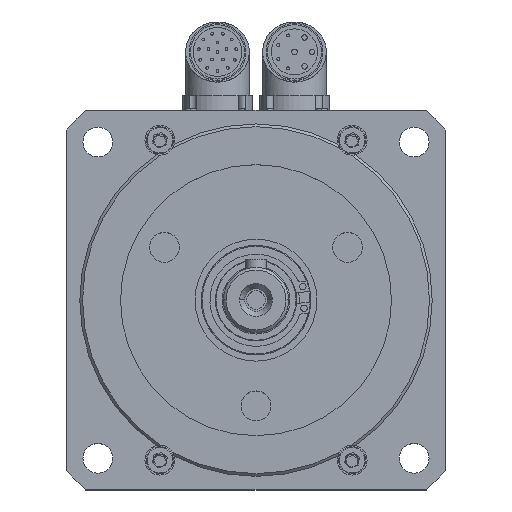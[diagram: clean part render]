
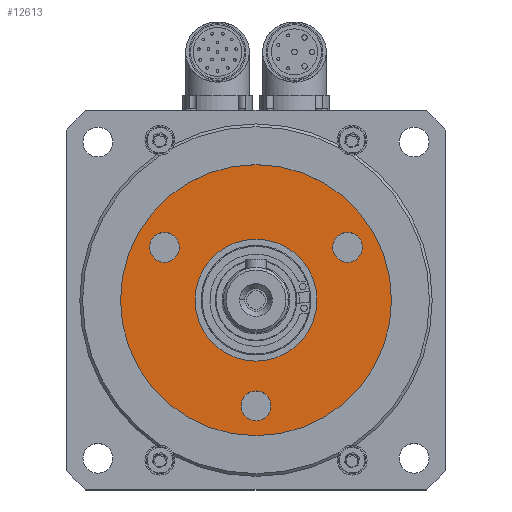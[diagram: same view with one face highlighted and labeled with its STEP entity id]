
A CAD part, top view. The second image highlights one B-rep face of the part: STEP entity #12613.
In plain terms, the highlighted planar face has unit normal (0, 0, 1).
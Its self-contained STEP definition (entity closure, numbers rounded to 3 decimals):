
#268 = CIRCLE ( 'NONE', #1715, 22.5 ) ;
#276 = CIRCLE ( 'NONE', #1720, 50. ) ;
#676 = VERTEX_POINT ( 'NONE', #2990 ) ;
#740 = VERTEX_POINT ( 'NONE', #2948 ) ;
#767 = VERTEX_POINT ( 'NONE', #3032 ) ;
#806 = VERTEX_POINT ( 'NONE', #2960 ) ;
#1602 = EDGE_LOOP ( 'NONE', ( #14963, #14964 ) ) ;
#1715 = AXIS2_PLACEMENT_3D ( 'NONE', #2246, #2247, #2248 ) ;
#1720 = AXIS2_PLACEMENT_3D ( 'NONE', #2257, #5171, #5173 ) ;
#1803 = AXIS2_PLACEMENT_3D ( 'NONE', #4909, #4910, #4911 ) ;
#1806 = AXIS2_PLACEMENT_3D ( 'NONE', #4899, #4900, #4901 ) ;
#1807 = AXIS2_PLACEMENT_3D ( 'NONE', #4915, #4916, #4917 ) ;
#1809 = AXIS2_PLACEMENT_3D ( 'NONE', #4912, #4913, #4914 ) ;
#1813 = AXIS2_PLACEMENT_3D ( 'NONE', #4935, #4943, #4944 ) ;
#1820 = AXIS2_PLACEMENT_3D ( 'NONE', #4949, #4956, #4957 ) ;
#1823 = AXIS2_PLACEMENT_3D ( 'NONE', #4958, #4965, #4966 ) ;
#1825 = AXIS2_PLACEMENT_3D ( 'NONE', #4964, #4970, #4971 ) ;
#2246 = CARTESIAN_POINT ( 'NONE',  ( 0., 0., 21.5 ) ) ;
#2247 = DIRECTION ( 'NONE',  ( 0., 0., 1. ) ) ;
#2248 = DIRECTION ( 'NONE',  ( 1., 0., 0. ) ) ;
#2257 = CARTESIAN_POINT ( 'NONE',  ( 0., 0., 21.5 ) ) ;
#2603 = CIRCLE ( 'NONE', #1806, 5.5 ) ;
#2608 = CIRCLE ( 'NONE', #1803, 5.5 ) ;
#2609 = CIRCLE ( 'NONE', #1809, 5.5 ) ;
#2611 = CIRCLE ( 'NONE', #1807, 22.5 ) ;
#2623 = CIRCLE ( 'NONE', #1813, 5.5 ) ;
#2627 = CIRCLE ( 'NONE', #1820, 5.5 ) ;
#2631 = CIRCLE ( 'NONE', #1823, 5.5 ) ;
#2635 = CIRCLE ( 'NONE', #1825, 50. ) ;
#2948 = CARTESIAN_POINT ( 'NONE',  ( -28.275, 19.5, 21.5 ) ) ;
#2960 = CARTESIAN_POINT ( 'NONE',  ( -22.5, 0., 21.5 ) ) ;
#2990 = CARTESIAN_POINT ( 'NONE',  ( 28.275, 19.5, 21.5 ) ) ;
#3032 = CARTESIAN_POINT ( 'NONE',  ( -39.275, 19.5, 21.5 ) ) ;
#4899 = CARTESIAN_POINT ( 'NONE',  ( -33.775, 19.5, 21.5 ) ) ;
#4900 = DIRECTION ( 'NONE',  ( 0., 0., 1. ) ) ;
#4901 = DIRECTION ( 'NONE',  ( 1., 0., 0. ) ) ;
#4909 = CARTESIAN_POINT ( 'NONE',  ( 33.775, 19.5, 21.5 ) ) ;
#4910 = DIRECTION ( 'NONE',  ( 0., 0., 1. ) ) ;
#4911 = DIRECTION ( 'NONE',  ( 1., 0., 0. ) ) ;
#4912 = CARTESIAN_POINT ( 'NONE',  ( 0., -39., 21.5 ) ) ;
#4913 = DIRECTION ( 'NONE',  ( 0., 0., 1. ) ) ;
#4914 = DIRECTION ( 'NONE',  ( 1., 0., 0. ) ) ;
#4915 = CARTESIAN_POINT ( 'NONE',  ( 0., 0., 21.5 ) ) ;
#4916 = DIRECTION ( 'NONE',  ( 0., 0., 1. ) ) ;
#4917 = DIRECTION ( 'NONE',  ( 1., 0., 0. ) ) ;
#4935 = CARTESIAN_POINT ( 'NONE',  ( 0., -39., 21.5 ) ) ;
#4943 = DIRECTION ( 'NONE',  ( 0., 0., 1. ) ) ;
#4944 = DIRECTION ( 'NONE',  ( 1., 0., 0. ) ) ;
#4949 = CARTESIAN_POINT ( 'NONE',  ( 33.775, 19.5, 21.5 ) ) ;
#4956 = DIRECTION ( 'NONE',  ( 0., 0., 1. ) ) ;
#4957 = DIRECTION ( 'NONE',  ( 1., 0., 0. ) ) ;
#4958 = CARTESIAN_POINT ( 'NONE',  ( -33.775, 19.5, 21.5 ) ) ;
#4964 = CARTESIAN_POINT ( 'NONE',  ( 0., 0., 21.5 ) ) ;
#4965 = DIRECTION ( 'NONE',  ( 0., 0., 1. ) ) ;
#4966 = DIRECTION ( 'NONE',  ( 1., 0., 0. ) ) ;
#4970 = DIRECTION ( 'NONE',  ( 0., 0., 1. ) ) ;
#4971 = DIRECTION ( 'NONE',  ( 1., 0., 0. ) ) ;
#5171 = DIRECTION ( 'NONE',  ( 0., 0., 1. ) ) ;
#5173 = DIRECTION ( 'NONE',  ( 1., 0., 0. ) ) ;
#5926 = VERTEX_POINT ( 'NONE', #8564 ) ;
#6036 = VERTEX_POINT ( 'NONE', #8674 ) ;
#6053 = VERTEX_POINT ( 'NONE', #8691 ) ;
#6054 = VERTEX_POINT ( 'NONE', #8692 ) ;
#6056 = VERTEX_POINT ( 'NONE', #8694 ) ;
#6062 = VERTEX_POINT ( 'NONE', #8700 ) ;
#8208 = AXIS2_PLACEMENT_3D ( 'NONE', #14152, #14156, #14157 ) ;
#8501 = EDGE_CURVE ( 'NONE', #6062, #806, #268, .T. ) ;
#8507 = EDGE_CURVE ( 'NONE', #6036, #6053, #276, .T. ) ;
#8564 = CARTESIAN_POINT ( 'NONE',  ( 5.5, -39., 21.5 ) ) ;
#8674 = CARTESIAN_POINT ( 'NONE',  ( -50., 0., 21.5 ) ) ;
#8691 = CARTESIAN_POINT ( 'NONE',  ( 50., 0., 21.5 ) ) ;
#8692 = CARTESIAN_POINT ( 'NONE',  ( 39.275, 19.5, 21.5 ) ) ;
#8694 = CARTESIAN_POINT ( 'NONE',  ( -5.5, -39., 21.5 ) ) ;
#8700 = CARTESIAN_POINT ( 'NONE',  ( 22.5, 0., 21.5 ) ) ;
#9291 = FACE_BOUND ( 'NONE', #11373, .T. ) ;
#9293 = FACE_BOUND ( 'NONE', #11349, .T. ) ;
#9299 = FACE_BOUND ( 'NONE', #1602, .T. ) ;
#9301 = FACE_BOUND ( 'NONE', #11398, .T. ) ;
#9303 = FACE_OUTER_BOUND ( 'NONE', #11382, .T. ) ;
#10185 = ORIENTED_EDGE ( 'NONE', *, *, #8507, .T. ) ;
#11349 = EDGE_LOOP ( 'NONE', ( #14971, #14970 ) ) ;
#11373 = EDGE_LOOP ( 'NONE', ( #14962, #14961 ) ) ;
#11382 = EDGE_LOOP ( 'NONE', ( #14967, #10185 ) ) ;
#11398 = EDGE_LOOP ( 'NONE', ( #14965, #14966 ) ) ;
#12031 = EDGE_CURVE ( 'NONE', #767, #740, #2603, .T. ) ;
#12035 = EDGE_CURVE ( 'NONE', #676, #6054, #2608, .T. ) ;
#12036 = EDGE_CURVE ( 'NONE', #6056, #5926, #2609, .T. ) ;
#12037 = EDGE_CURVE ( 'NONE', #806, #6062, #2611, .T. ) ;
#12048 = EDGE_CURVE ( 'NONE', #5926, #6056, #2623, .T. ) ;
#12052 = EDGE_CURVE ( 'NONE', #6054, #676, #2627, .T. ) ;
#12055 = EDGE_CURVE ( 'NONE', #740, #767, #2631, .T. ) ;
#12057 = EDGE_CURVE ( 'NONE', #6053, #6036, #2635, .T. ) ;
#12613 = ADVANCED_FACE ( 'NONE', ( #9291, #9299, #9301, #9303, #9293 ), #14149, .T. ) ;
#14149 = PLANE ( 'NONE',  #8208 ) ;
#14152 = CARTESIAN_POINT ( 'NONE',  ( 0., 50., 21.5 ) ) ;
#14156 = DIRECTION ( 'NONE',  ( 0., 0., 1. ) ) ;
#14157 = DIRECTION ( 'NONE',  ( 1., 0., 0. ) ) ;
#14961 = ORIENTED_EDGE ( 'NONE', *, *, #12031, .F. ) ;
#14962 = ORIENTED_EDGE ( 'NONE', *, *, #12055, .F. ) ;
#14963 = ORIENTED_EDGE ( 'NONE', *, *, #12052, .F. ) ;
#14964 = ORIENTED_EDGE ( 'NONE', *, *, #12035, .F. ) ;
#14965 = ORIENTED_EDGE ( 'NONE', *, *, #12048, .F. ) ;
#14966 = ORIENTED_EDGE ( 'NONE', *, *, #12036, .F. ) ;
#14967 = ORIENTED_EDGE ( 'NONE', *, *, #12057, .T. ) ;
#14970 = ORIENTED_EDGE ( 'NONE', *, *, #12037, .F. ) ;
#14971 = ORIENTED_EDGE ( 'NONE', *, *, #8501, .F. ) ;
